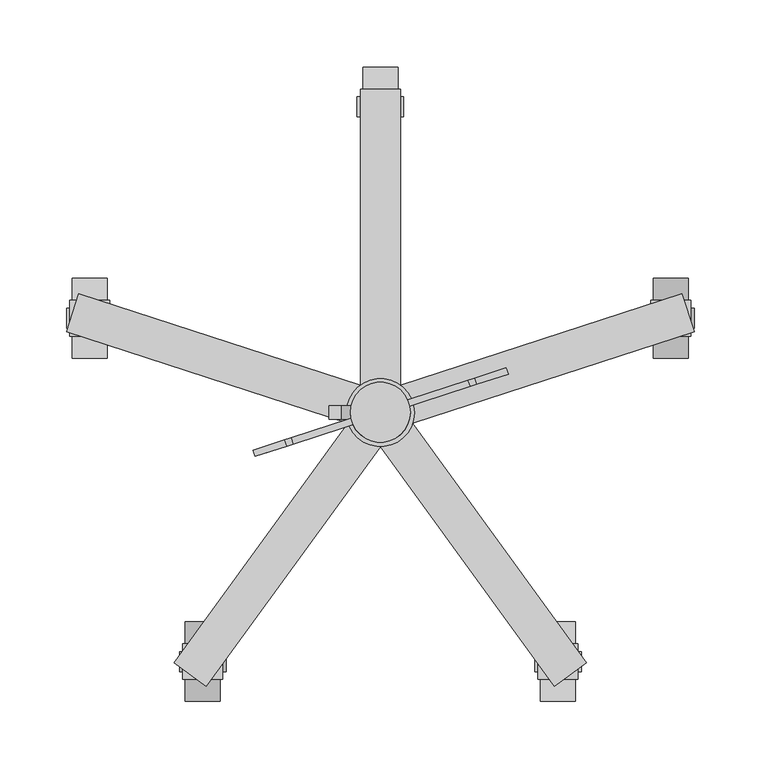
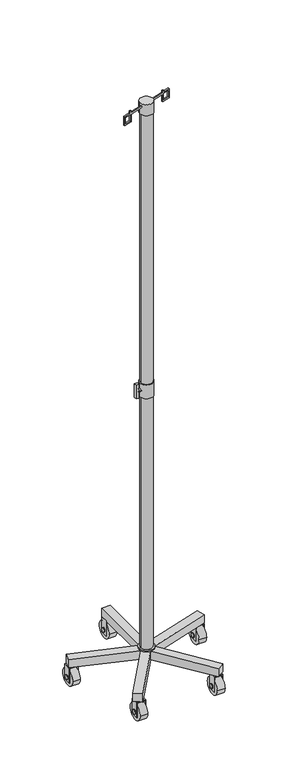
"""IFC4 building model written with IfcOpenShell, lengths in millimetres: proxy geometry, BIMHealth-Drip_Stand-LOD2A-v1 : BIMHealth-Drip_Stand-LOD2A-v1."""

import ifcopenshell
import ifcopenshell.guid

model = None  # the IFC model being written
_history = None  # IfcOwnerHistory: only IFC2X3 demands one
_inside = {}  # id of a spatial element -> (the spatial element, [elements in it])
_under = {}  # id of a project, library or spatial element -> (it, [spatial elements below it])
_declared = {}  # id of a project -> (the project, [libraries it declares])
_typed = {}  # id of a type object -> (the type object, [elements of that type])
_made_of = {}  # id of a material, layer set ... -> (it, [elements and type objects made of it])


def new_model(schema):
    """Start an empty IFC model of exactly this schema.

    Asked for "IFC4X3", IfcOpenShell would pick the latest addendum, in which some entities
    have other attributes; the version numbers below select the first issue.
    IFC2X3 requires an IfcOwnerHistory on every rooted entity: one is made here for all.
    """
    global model, _history
    if schema == "IFC4X3":
        model = ifcopenshell.file(schema_version=(4, 3, 0, 0))
    else:
        model = ifcopenshell.file(schema=schema)
    _inside.clear()
    _under.clear()
    _declared.clear()
    _typed.clear()
    _made_of.clear()
    _history = None
    if model.schema == "IFC2X3":
        org = make("IfcOrganization", Name="unknown")
        user = make(
            "IfcPersonAndOrganization",
            ThePerson=make("IfcPerson", FamilyName="unknown"),
            TheOrganization=org,
        )
        app = make(
            "IfcApplication",
            ApplicationDeveloper=org,
            Version="unknown",
            ApplicationFullName="unknown",
            ApplicationIdentifier="unknown",
        )
        _history = make(
            "IfcOwnerHistory",
            OwningUser=user,
            OwningApplication=app,
            ChangeAction="ADDED",
            CreationDate=0,
        )
    return model


def make(cls, **values):
    """One entity of the class cls with the attributes given. An attribute that is None is left unset."""
    return model.create_entity(
        cls, **{name: value for name, value in values.items() if value is not None}
    )


def rooted(cls, **values):
    """An entity with a GlobalId (a new one), such as an element, a storey or a relation."""
    return make(cls, GlobalId=ifcopenshell.guid.new(), OwnerHistory=_history, **values)


def si_unit(unit_type, name, prefix=None):
    """IfcSIUnit, for example si_unit("LENGTHUNIT", "METRE", prefix="MILLI")."""
    return make("IfcSIUnit", UnitType=unit_type, Prefix=prefix, Name=name)


def assignment(units):
    """IfcUnitAssignment: the units of a project."""
    return None if units is None else make("IfcUnitAssignment", Units=units)


def point(xyz):
    """IfcCartesianPoint."""
    return None if xyz is None else make("IfcCartesianPoint", Coordinates=xyz)


def direction(xyz):
    """IfcDirection."""
    return None if xyz is None else make("IfcDirection", DirectionRatios=xyz)


def frame(location, z_axis=None, x_axis=None):
    """IfcAxis2Placement3D, a coordinate frame: its origin and axes. An axis left out is left unset."""
    return make(
        "IfcAxis2Placement3D",
        Location=point(location),
        Axis=direction(z_axis),
        RefDirection=direction(x_axis),
    )


def frame_2d(location, x_axis=None):
    """IfcAxis2Placement2D, a coordinate frame in the plane: its origin and x axis."""
    return make(
        "IfcAxis2Placement2D", Location=point(location), RefDirection=direction(x_axis)
    )


def origin():
    """The frame at (0, 0, 0) with its axes left unset."""
    return frame((0.0, 0.0, 0.0))


def origin_2d():
    """The frame at (0, 0) in the plane with its x axis left unset."""
    return frame_2d((0.0, 0.0))


def place(relative_to, where):
    """IfcLocalPlacement: puts the frame where relative to a parent placement (None: the world)."""
    return make(
        "IfcLocalPlacement", PlacementRelTo=relative_to, RelativePlacement=where
    )


def context(
    kind, dimensions, precision=None, world=None, true_north=None, identifier=None
):
    """IfcGeometricRepresentationContext, for example the 3D "Model" context."""
    return make(
        "IfcGeometricRepresentationContext",
        ContextIdentifier=identifier,
        ContextType=kind,
        CoordinateSpaceDimension=dimensions,
        Precision=precision,
        WorldCoordinateSystem=world,
        TrueNorth=true_north,
    )


def project(units=None, contexts=None):
    """IfcProject with its units and contexts."""
    return rooted(
        "IfcProject",
        Name="project",
        RepresentationContexts=contexts,
        UnitsInContext=assignment(units),
    )


def spatial(cls, under=None, at=None, **own):
    """A site, building, storey or space (cls), placed at a placement, below another one or the project."""
    s = rooted(cls, ObjectPlacement=at, **own)
    if under is not None:
        _under.setdefault(under.id(), (under, []))[1].append(s)
    return s


def polyline(points):
    """IfcPolyline through the points."""
    return make("IfcPolyline", Points=[point(p) for p in points])


def circle_curve(where, radius):
    """IfcCircle in the frame where."""
    return make("IfcCircle", Position=where, Radius=radius)


def trimmed(basis, trim1, trim2, sense, master):
    """IfcTrimmedCurve: the piece of a basis curve between two trims."""
    return make(
        "IfcTrimmedCurve",
        BasisCurve=basis,
        Trim1=trim1,
        Trim2=trim2,
        SenseAgreement=sense,
        MasterRepresentation=master,
    )


def segment(curve, same_sense, transition):
    """IfcCompositeCurveSegment."""
    return make(
        "IfcCompositeCurveSegment",
        Transition=transition,
        SameSense=same_sense,
        ParentCurve=curve,
    )


def composite_curve(segments, self_intersect=None):
    """IfcCompositeCurve: segments joined end to end."""
    return make("IfcCompositeCurve", Segments=segments, SelfIntersect=self_intersect)


def outline(outer, holes=None, kind="AREA"):
    """IfcArbitraryClosedProfileDef: a profile drawn as a closed curve; with holes, ...WithVoids."""
    if holes is None:
        return make("IfcArbitraryClosedProfileDef", ProfileType=kind, OuterCurve=outer)
    return make(
        "IfcArbitraryProfileDefWithVoids",
        ProfileType=kind,
        OuterCurve=outer,
        InnerCurves=holes,
    )


def extrude(swept, where, along, depth):
    """IfcExtrudedAreaSolid: the profile swept, set in the frame where, extruded along a direction by depth."""
    return make(
        "IfcExtrudedAreaSolid",
        SweptArea=swept,
        Position=where,
        ExtrudedDirection=direction(along),
        Depth=depth,
    )


def shape(context_of_items, identifier, shape_type, items):
    """IfcShapeRepresentation: the items that make up one representation, for example the "Body"."""
    return make(
        "IfcShapeRepresentation",
        ContextOfItems=context_of_items,
        RepresentationIdentifier=identifier,
        RepresentationType=shape_type,
        Items=items,
    )


def source(mapping_origin, context_of_items, identifier, shape_type, items):
    """IfcRepresentationMap: a shape defined once, which mapped items show again and again."""
    return make(
        "IfcRepresentationMap",
        MappingOrigin=mapping_origin,
        MappedRepresentation=shape(context_of_items, identifier, shape_type, items),
    )


def transform(
    local_origin,
    x_axis=None,
    y_axis=None,
    z_axis=None,
    scale=None,
    scale2=None,
    scale3=None,
    uniform=True,
):
    """IfcCartesianTransformationOperator3D, or its non-uniform kind. x_axis, y_axis, z_axis: its Axis1, 2, 3."""
    if uniform:
        return make(
            "IfcCartesianTransformationOperator3D",
            Axis1=direction(x_axis),
            Axis2=direction(y_axis),
            LocalOrigin=point(local_origin),
            Scale=scale,
            Axis3=direction(z_axis),
        )
    return make(
        "IfcCartesianTransformationOperator3DnonUniform",
        Axis1=direction(x_axis),
        Axis2=direction(y_axis),
        LocalOrigin=point(local_origin),
        Scale=scale,
        Axis3=direction(z_axis),
        Scale2=scale2,
        Scale3=scale3,
    )


def mapped(mapping_source, mapping_target):
    """IfcMappedItem: shows the shape of a source again, moved by a transform."""
    return make(
        "IfcMappedItem", MappingSource=mapping_source, MappingTarget=mapping_target
    )


def made_of(thing, what):
    """Note that an element or type object is made of a material, layer set ...; save() writes the relation."""
    if what is not None:
        _made_of.setdefault(what.id(), (what, []))[1].append(thing)
    return thing


def element(
    cls,
    number,
    at=None,
    inside=None,
    cuts=None,
    type_object=None,
    material=None,
    context=None,
    identifier="Body",
    shape_type=None,
    held_by="IfcProductDefinitionShape",
    body=None,
    shapes=None,
    **own,
):
    """One element of the class cls, such as IfcWall. Its Tag is "e" and its number.

    at: its placement. inside: the storey or other place that contains it. cuts: it is an
    opening in that element (IfcRelVoidsElement). A single representation is given by context,
    identifier, shape_type and body (its items); several are given by shapes. held_by: the class
    of the entity that holds the representations. save() writes the other relations.
    """
    e = rooted(cls, Tag="e%d" % number, ObjectPlacement=at, **own)
    if body is not None:
        shapes = [shape(context, identifier, shape_type, body)]
    if shapes is not None:
        e.Representation = make(held_by, Representations=shapes)
    if inside is not None:
        _inside.setdefault(inside.id(), (inside, []))[1].append(e)
    if cuts is not None:
        rooted(
            "IfcRelVoidsElement", RelatingBuildingElement=cuts, RelatedOpeningElement=e
        )
    if type_object is not None:
        _typed.setdefault(type_object.id(), (type_object, []))[1].append(e)
    return made_of(e, material)


def aggregate(whole, parts):
    """IfcRelAggregates: a whole, such as a stair, and the parts it consists of."""
    return rooted("IfcRelAggregates", RelatingObject=whole, RelatedObjects=parts)


def save(model, path):
    """Write the relations noted so far, then the file.

    IfcRelAggregates (storeys below a building ...), IfcRelContainedInSpatialStructure (elements
    in a storey), IfcRelDefinesByType, IfcRelAssociatesMaterial and IfcRelDeclares: one each for
    every whole, place, type object, material and project.
    """
    for whole, parts in _under.values():
        aggregate(whole, parts)
    for where, things in _inside.values():
        rooted(
            "IfcRelContainedInSpatialStructure",
            RelatedElements=things,
            RelatingStructure=where,
        )
    for kind, things in _typed.values():
        rooted("IfcRelDefinesByType", RelatedObjects=things, RelatingType=kind)
    for what, things in _made_of.values():
        rooted("IfcRelAssociatesMaterial", RelatedObjects=things, RelatingMaterial=what)
    for by, libraries in _declared.values():
        rooted("IfcRelDeclares", RelatingContext=by, RelatedDefinitions=libraries)
    model.write(path)


def generic_models_b7986ebb(model_context):
    return source(origin(), model_context, "Body", "SweptSolid", [
        extrude(outline(polyline([(25.0, 0.0), (0.0, 0.0), (0.0, -7.1627245), (-5.0, -7.1627245), (-5.0, 0.0), (-145.0, 0.0), (-145.0, -7.1627245), (-150.0000001, -7.1627245), (-150.0000001, 0.0), (-175.0, 0.0), (-175.0, 32.8372755), (-145.0, 32.8372755), (-145.0, 5.0), (-5.0, 5.0), (-5.0, 32.8372755), (25.0, 32.8372755), (25.0, 0.0)]), holes=[polyline([(20.0, 5.0), (20.0, 27.8372755), (0.0, 27.8372755), (0.0, 5.0), (20.0, 5.0)]), polyline([(-170.0, 5.0), (-150.0000001, 5.0), (-150.0000001, 27.8372755), (-170.0, 27.8372755), (-170.0, 5.0)])]), frame((72.3680211, 20.8851399, 2092.8372755), z_axis=(-0.30901699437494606, 0.9510565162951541, 0.0), x_axis=(0.9510565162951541, 0.30901699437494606, 0.0)), (0.0, 0.0, 1.0), 5.0),
        extrude(outline(composite_curve([segment(trimmed(circle_curve(origin_2d(), 25.5195243), [point((-25.5195243, 0.0))], [point((25.5195243, 0.0))], False, "CARTESIAN"), True, "CONTINUOUS"), segment(trimmed(circle_curve(origin_2d(), 25.5195243), [point((25.5195243, 0.0))], [point((-25.5195243, 0.0))], False, "CARTESIAN"), True, "CONTINUOUS")], self_intersect=False)), frame((0.0, 0.0, 100.0), z_axis=(0.0, 0.0, 1.0), x_axis=(1.0, 0.0, 0.0)), (0.0, 0.0, 1.0), 5.0),
        extrude(outline(composite_curve([segment(trimmed(circle_curve(frame_2d((-186.9643053, 30.0)), 7.5), [point((-179.4643053, 30.0))], [point((-194.4643053, 30.0))], False, "CARTESIAN"), True, "CONTINUOUS"), segment(trimmed(circle_curve(frame_2d((-186.9643053, 30.0)), 7.5), [point((-194.4643053, 30.0))], [point((-179.4643053, 30.0))], False, "CARTESIAN"), True, "CONTINUOUS")], self_intersect=False)), frame((116.0980147, 0.0, 0.0), z_axis=(1.0, 0.0, 0.0), x_axis=(0.0, 1.0, 0.0)), (0.0, 0.0, 1.0), 34.9726641),
        extrude(outline(composite_curve([segment(trimmed(circle_curve(frame_2d((-186.9643053, 30.0)), 30.0), [point((-156.9643053, 30.0))], [point((-216.9643053, 30.0))], False, "CARTESIAN"), True, "CONTINUOUS"), segment(trimmed(circle_curve(frame_2d((-186.9643053, 30.0)), 30.0), [point((-216.9643053, 30.0))], [point((-156.9643053, 30.0))], False, "CARTESIAN"), True, "CONTINUOUS")], self_intersect=False)), frame((120.3978516, 0.0, 0.0), z_axis=(1.0, 0.0, 0.0), x_axis=(0.0, 1.0, 0.0)), (0.0, 0.0, 1.0), 26.3069144),
        extrude(outline(polyline([(15.0, 118.5513088), (15.0, 120.3978516), (68.0, 120.3978516), (68.0, 146.704766), (15.0, 146.704766), (15.0, 148.5513088), (70.0, 148.5513088), (70.0, 118.5513088), (15.0, 118.5513088)])), frame((0.0, -200.3973927, 0.0), z_axis=(0.0, 1.0, 0.0), x_axis=(0.0, 0.0, 1.0)), (0.0, 0.0, 1.0), 26.866175),
        extrude(outline(composite_curve([segment(trimmed(circle_curve(frame_2d((71.0018239, 30.0)), 7.5), [point((63.5018239, 30.0))], [point((78.5018239, 30.0))], False, "CARTESIAN"), True, "CONTINUOUS"), segment(trimmed(circle_curve(frame_2d((71.0018239, 30.0)), 7.5), [point((78.5018239, 30.0))], [point((63.5018239, 30.0))], False, "CARTESIAN"), True, "CONTINUOUS")], self_intersect=False)), frame((-235.9601247, 0.0, 0.0), z_axis=(1.0, 0.0, 0.0), x_axis=(0.0, 1.0, 0.0)), (0.0, 0.0, 1.0), 34.9726641),
        extrude(outline(composite_curve([segment(trimmed(circle_curve(frame_2d((71.0018239, 30.0)), 30.0), [point((41.0018239, 30.0))], [point((101.0018239, 30.0))], False, "CARTESIAN"), True, "CONTINUOUS"), segment(trimmed(circle_curve(frame_2d((71.0018239, 30.0)), 30.0), [point((101.0018239, 30.0))], [point((41.0018239, 30.0))], False, "CARTESIAN"), True, "CONTINUOUS")], self_intersect=False)), frame((-231.6602879, 0.0, 0.0), z_axis=(1.0, 0.0, 0.0), x_axis=(0.0, 1.0, 0.0)), (0.0, 0.0, 1.0), 26.3069144),
        extrude(outline(polyline([(15.0, -233.5068307), (15.0, -231.6602879), (68.0, -231.6602879), (68.0, -205.3533735), (15.0, -205.3533735), (15.0, -203.5068307), (70.0, -203.5068307), (70.0, -233.5068307), (15.0, -233.5068307)])), frame((0.0, 57.5687364, 0.0), z_axis=(0.0, 1.0, 0.0), x_axis=(0.0, 0.0, 1.0)), (0.0, 0.0, 1.0), 26.866175),
        extrude(outline(composite_curve([segment(trimmed(circle_curve(frame_2d((-186.9643053, 30.0)), 7.5), [point((-179.4643053, 30.0))], [point((-194.4643053, 30.0))], False, "CARTESIAN"), True, "CONTINUOUS"), segment(trimmed(circle_curve(frame_2d((-186.9643053, 30.0)), 7.5), [point((-194.4643053, 30.0))], [point((-179.4643053, 30.0))], False, "CARTESIAN"), True, "CONTINUOUS")], self_intersect=False)), frame((-151.0706789, 0.0, 0.0), z_axis=(1.0, 0.0, 0.0), x_axis=(0.0, 1.0, 0.0)), (0.0, 0.0, 1.0), 34.9726641),
        extrude(outline(composite_curve([segment(trimmed(circle_curve(frame_2d((-186.9643053, 30.0)), 30.0), [point((-156.9643053, 30.0))], [point((-216.9643053, 30.0))], False, "CARTESIAN"), True, "CONTINUOUS"), segment(trimmed(circle_curve(frame_2d((-186.9643053, 30.0)), 30.0), [point((-216.9643053, 30.0))], [point((-156.9643053, 30.0))], False, "CARTESIAN"), True, "CONTINUOUS")], self_intersect=False)), frame((-146.704766, 0.0, 0.0), z_axis=(1.0, 0.0, 0.0), x_axis=(0.0, 1.0, 0.0)), (0.0, 0.0, 1.0), 26.3069144),
        extrude(outline(polyline([(15.0, -118.5513088), (70.0, -118.5513088), (70.0, -148.5513088), (15.0, -148.5513088), (15.0, -146.704766), (68.0, -146.704766), (68.0, -120.3978516), (15.0, -120.3978516), (15.0, -118.5513088)])), frame((0.0, -200.3973927, 0.0), z_axis=(0.0, 1.0, 0.0), x_axis=(0.0, 0.0, 1.0)), (0.0, 0.0, 1.0), 26.866175),
        extrude(outline(composite_curve([segment(trimmed(circle_curve(frame_2d((71.0018239, 30.0)), 7.5), [point((63.5018239, 30.0))], [point((78.5018239, 30.0))], False, "CARTESIAN"), True, "CONTINUOUS"), segment(trimmed(circle_curve(frame_2d((71.0018239, 30.0)), 7.5), [point((78.5018239, 30.0))], [point((63.5018239, 30.0))], False, "CARTESIAN"), True, "CONTINUOUS")], self_intersect=False)), frame((200.9874606, 0.0, 0.0), z_axis=(1.0, 0.0, 0.0), x_axis=(0.0, 1.0, 0.0)), (0.0, 0.0, 1.0), 34.9726641),
        extrude(outline(composite_curve([segment(trimmed(circle_curve(frame_2d((71.0018239, 30.0)), 30.0), [point((41.0018239, 30.0))], [point((101.0018239, 30.0))], False, "CARTESIAN"), True, "CONTINUOUS"), segment(trimmed(circle_curve(frame_2d((71.0018239, 30.0)), 30.0), [point((101.0018239, 30.0))], [point((41.0018239, 30.0))], False, "CARTESIAN"), True, "CONTINUOUS")], self_intersect=False)), frame((205.3533735, 0.0, 0.0), z_axis=(1.0, 0.0, 0.0), x_axis=(0.0, 1.0, 0.0)), (0.0, 0.0, 1.0), 26.3069144),
        extrude(outline(polyline([(15.0, 233.5068307), (70.0, 233.5068307), (70.0, 203.5068307), (15.0, 203.5068307), (15.0, 205.3533735), (68.0, 205.3533735), (68.0, 231.6602879), (15.0, 231.6602879), (15.0, 233.5068307)])), frame((0.0, 57.5687364, 0.0), z_axis=(0.0, 1.0, 0.0), x_axis=(0.0, 0.0, 1.0)), (0.0, 0.0, 1.0), 26.866175),
        extrude(outline(composite_curve([segment(trimmed(circle_curve(frame_2d((229.751961, 30.0)), 7.5), [point((222.251961, 30.0))], [point((237.251961, 30.0))], False, "CARTESIAN"), True, "CONTINUOUS"), segment(trimmed(circle_curve(frame_2d((229.751961, 30.0)), 7.5), [point((237.251961, 30.0))], [point((222.251961, 30.0))], False, "CARTESIAN"), True, "CONTINUOUS")], self_intersect=False)), frame((-17.453294, 0.0, 0.0), z_axis=(1.0, 0.0, 0.0), x_axis=(0.0, 1.0, 0.0)), (0.0, 0.0, 1.0), 34.9726641),
        extrude(outline(composite_curve([segment(trimmed(circle_curve(frame_2d((229.751961, 30.0)), 30.0), [point((199.751961, 30.0))], [point((259.751961, 30.0))], False, "CARTESIAN"), True, "CONTINUOUS"), segment(trimmed(circle_curve(frame_2d((229.751961, 30.0)), 30.0), [point((259.751961, 30.0))], [point((199.751961, 30.0))], False, "CARTESIAN"), True, "CONTINUOUS")], self_intersect=False)), frame((-13.1534572, 0.0, 0.0), z_axis=(1.0, 0.0, 0.0), x_axis=(0.0, 1.0, 0.0)), (0.0, 0.0, 1.0), 26.3069144),
        extrude(outline(polyline([(15.0, -15.0), (15.0, -13.1534572), (68.0, -13.1534572), (68.0, 13.1534572), (15.0, 13.1534572), (15.0, 15.0), (70.0, 15.0), (70.0, -15.0), (15.0, -15.0)])), frame((0.0, 216.3188736, 0.0), z_axis=(0.0, 1.0, 0.0), x_axis=(0.0, 0.0, 1.0)), (0.0, 0.0, 1.0), 26.866175),
        extrude(outline(polyline([(-38.4890882, 5.0), (-29.4722646, 5.0), (-29.4722646, -5.0), (-38.4890882, -5.0), (-38.4890882, 5.0)])), frame((0.0, 0.0, 1025.0), z_axis=(0.0, 0.0, 1.0), x_axis=(1.0, 0.0, 0.0)), (0.0, 0.0, 1.0), 50.0),
        extrude(outline(composite_curve([segment(trimmed(circle_curve(frame_2d((0.0, 1050.0)), 5.0), [point((-5.0, 1050.0))], [point((5.0, 1050.0))], False, "CARTESIAN"), True, "CONTINUOUS"), segment(trimmed(circle_curve(frame_2d((0.0, 1050.0)), 5.0), [point((5.0, 1050.0))], [point((-5.0, 1050.0))], False, "CARTESIAN"), True, "CONTINUOUS")], self_intersect=False)), frame((-29.4722646, 0.0, 0.0), z_axis=(1.0, 0.0, 0.0), x_axis=(0.0, 1.0, 0.0)), (0.0, 0.0, 1.0), 11.979748),
        extrude(outline(composite_curve([segment(trimmed(circle_curve(origin_2d(), 22.5), [point((-22.5, 0.0))], [point((22.5, 0.0))], False, "CARTESIAN"), True, "CONTINUOUS"), segment(trimmed(circle_curve(origin_2d(), 22.5), [point((22.5, 0.0))], [point((-22.5, 0.0))], False, "CARTESIAN"), True, "CONTINUOUS")], self_intersect=False)), frame((0.0, 0.0, 1025.0), z_axis=(0.0, 0.0, 1.0), x_axis=(1.0, 0.0, 0.0)), (0.0, 0.0, 1.0), 50.0),
        extrude(outline(composite_curve([segment(trimmed(circle_curve(origin_2d(), 22.5), [point((-22.5, 0.0))], [point((22.5, 0.0))], False, "CARTESIAN"), True, "CONTINUOUS"), segment(trimmed(circle_curve(origin_2d(), 22.5), [point((22.5, 0.0))], [point((-22.5, 0.0))], False, "CARTESIAN"), True, "CONTINUOUS")], self_intersect=False)), frame((0.0, 0.0, 2060.0), z_axis=(0.0, 0.0, 1.0), x_axis=(1.0, 0.0, 0.0)), (0.0, 0.0, 1.0), 40.0),
        extrude(outline(composite_curve([segment(trimmed(circle_curve(origin_2d(), 20.0), [point((-20.0, 0.0))], [point((20.0, 0.0))], False, "CARTESIAN"), True, "CONTINUOUS"), segment(trimmed(circle_curve(origin_2d(), 20.0), [point((20.0, 0.0))], [point((-20.0, 0.0))], False, "CARTESIAN"), True, "CONTINUOUS")], self_intersect=False)), frame((0.0, 0.0, 100.0), z_axis=(0.0, 0.0, 1.0), x_axis=(1.0, 0.0, 0.0)), (0.0, 0.0, 1.0), 1960.0),
        extrude(outline(polyline([(15.0, 243.1850485), (15.0, 20.6457288), (226.6474701, 89.4141605), (235.91798, 60.882465), (24.2705098, -7.8859667), (155.07584, -187.9240582), (130.8053302, -205.5576158), (0.0, -25.5195243), (-130.8053302, -205.5576158), (-155.07584, -187.9240582), (-24.2705098, -7.8859667), (-235.91798, 60.882465), (-226.6474701, 89.4141605), (-15.0, 20.6457288), (-15.0, 243.1850485), (15.0, 243.1850485)])), frame((0.0, 0.0, 70.0), z_axis=(0.0, 0.0, 1.0), x_axis=(1.0, 0.0, 0.0)), (0.0, 0.0, 1.0), 30.0),
    ])


if __name__ == "__main__":
    model = new_model("IFC4")
    model_context = context("Model", 3, world=origin())
    ifc_project = project(units=[si_unit("LENGTHUNIT", "METRE", prefix="MILLI")], contexts=[model_context])
    site = spatial("IfcSite", under=ifc_project)
    building = spatial("IfcBuilding", under=site)
    placement = place(None, origin())
    generic_models_shape = generic_models_b7986ebb(model_context)
    element("IfcBuildingElementProxy", 1, Name="BIMHealth-Drip_Stand-LOD2A-v1 : BIMHealth-Drip_Stand-LOD2A-v1", ObjectType="BIMHealth-Drip_Stand-LOD2A-v1 : BIMHealth-Drip_Stand-LOD2A-v1", at=placement, inside=building, context=model_context, shape_type="MappedRepresentation", body=[
        mapped(generic_models_shape, transform((0.0, 0.0, 0.0), x_axis=(1.0, 0.0, 0.0), y_axis=(0.0, 1.0, 0.0), z_axis=(0.0, 0.0, 1.0))),
    ])
    save(model, "model.ifc")
